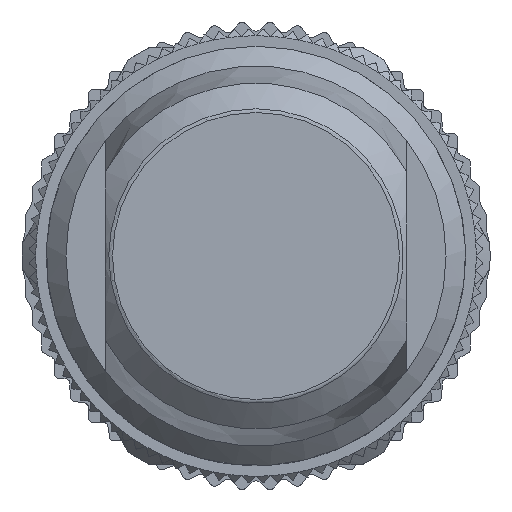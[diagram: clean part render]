
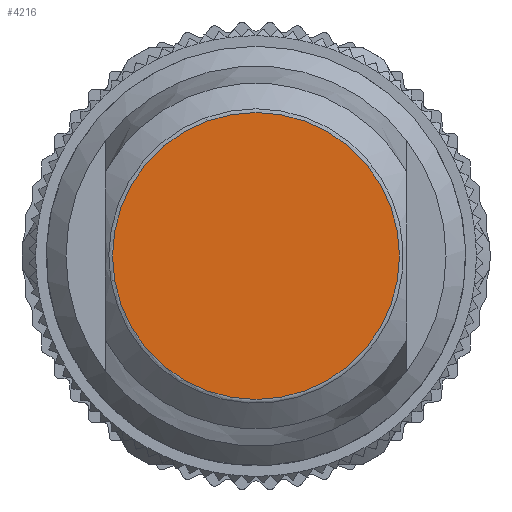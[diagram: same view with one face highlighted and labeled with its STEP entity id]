
A CAD part, front view. The second image highlights one B-rep face of the part: STEP entity #4216.
In plain terms, the highlighted planar face has unit normal (0, -1, 0).
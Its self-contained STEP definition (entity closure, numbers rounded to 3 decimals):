
#2763=FACE_OUTER_BOUND('',#5595,.T.);
#4216=ADVANCED_FACE('',(#2763),#4598,.T.);
#4598=PLANE('',#14789);
#5595=EDGE_LOOP('',(#9541));
#9541=ORIENTED_EDGE('',*,*,#12726,.T.);
#10754=VERTEX_POINT('',#25622);
#12726=EDGE_CURVE('',#10754,#10754,#13338,.T.);
#13338=CIRCLE('',#14767,6.192);
#14767=AXIS2_PLACEMENT_3D('',#25621,#18371,#18372);
#14789=AXIS2_PLACEMENT_3D('',#25653,#18415,#18416);
#18371=DIRECTION('',(0.,-1.,0.));
#18372=DIRECTION('',(0.,0.,1.));
#18415=DIRECTION('',(0.,-1.,0.));
#18416=DIRECTION('',(0.,0.,1.));
#25621=CARTESIAN_POINT('',(0.,-45.7,0.));
#25622=CARTESIAN_POINT('',(0.,-45.7,6.192));
#25653=CARTESIAN_POINT('',(0.,-45.7,0.));
